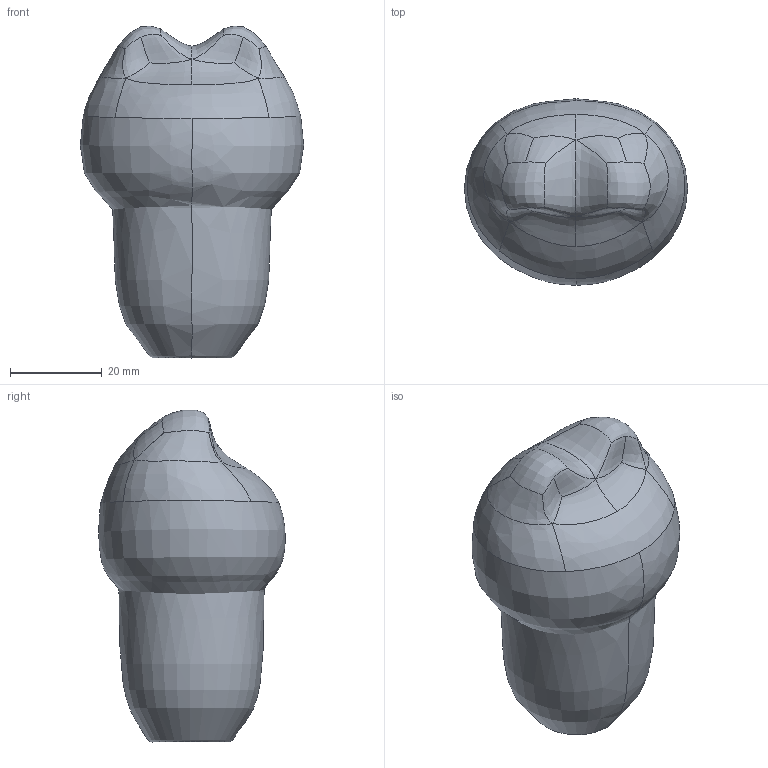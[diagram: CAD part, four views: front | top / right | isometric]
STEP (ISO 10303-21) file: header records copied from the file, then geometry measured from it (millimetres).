
FILE_DESCRIPTION((''),'2;1');
FILE_NAME('PRT0003','2026-05-28T09:21:14',('111'),(''),'CREO PARAMETRIC BY PTC INC, 2021023','CREO PARAMETRIC BY PTC INC, 2021023','');
FILE_SCHEMA(('CONFIG_CONTROL_DESIGN','SHAPE_APPEARANCE_LAYERS_GROUPS'));
Length unit declared in the file: millimetre
Products named in the file (1): PRT0003
Bounding box: 48.56 x 40.58 x 72.2 mm (x, y, z)
Volume: 19526.3 mm3; surface area: 16285.4 mm2
Topology: 1 solids, 2 shells, 126 faces, 324 edges, 200 vertices
Faces by surface type: bspline 60, plane 50, cylinder 10, cone 4, torus 2
Entity records: 15913 total; most frequent: CARTESIAN_POINT 13347, ORIENTED_EDGE 636, EDGE_CURVE 318, DIRECTION 313, VERTEX_POINT 200, B_SPLINE_CURVE_WITH_KNOTS 160, VECTOR 135, LINE 135
